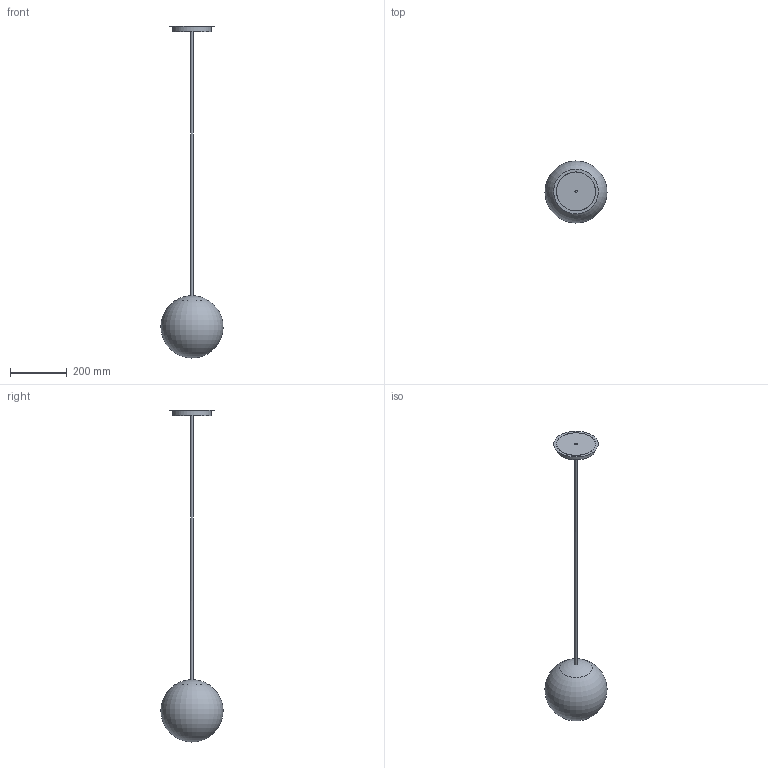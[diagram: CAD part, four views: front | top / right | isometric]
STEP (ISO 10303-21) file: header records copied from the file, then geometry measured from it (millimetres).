
FILE_DESCRIPTION(('STEP AP214'),'1');
FILE_NAME('Bacan_220.stp','2018-12-18T22:40:25',(' '),(' '),'Spatial InterOp 3D',' ',' ');
FILE_SCHEMA(('AUTOMOTIVE_DESIGN { 1 0 10303 214 1 1 1 1 }'));
Length unit declared in the file: millimetre
Products named in the file (1): Bry_a
Bounding box: 219.76 x 219.7 x 1174.08 mm (x, y, z)
Volume: 5873379.3 mm3; surface area: 251256.5 mm2
Topology: 3 solids, 6 shells, 14 faces, 40 edges, 32 vertices
Faces by surface type: bspline 14
Entity records: 5570 total; most frequent: CARTESIAN_POINT 5292, ORIENTED_EDGE 45, EDGE_CURVE 28, VERTEX_POINT 28, DIRECTION 24, EDGE_LOOP 23, B_SPLINE_CURVE_WITH_KNOTS 22, B_SPLINE_SURFACE_WITH_KNOTS 14
